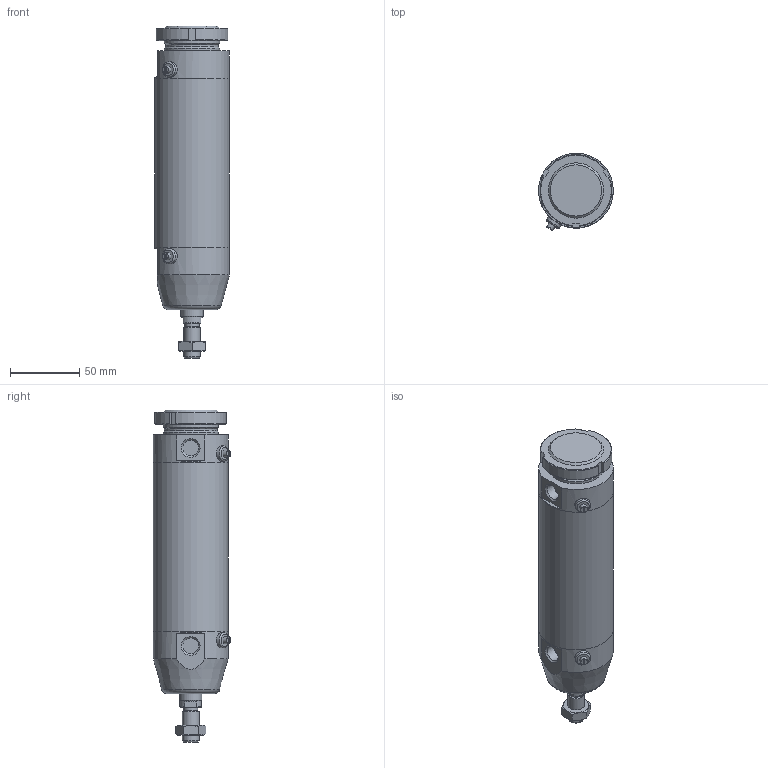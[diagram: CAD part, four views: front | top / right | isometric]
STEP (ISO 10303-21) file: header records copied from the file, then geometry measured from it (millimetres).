
FILE_DESCRIPTION(/* description */ (''),/* implementation_level */ '2;1');
FILE_NAME(/* name */ 'I:\Area Tecnica\Documenti\A-Manieri\_Inventor\12X\12X#B_###_####_#_#\12XBB_050_0080_#_#.stp',/* time_stamp */ '2015-04-28T14:28:39+02:00',/* author */ ('maniean1'),/* organization */ ('Pneumax S.p.A.'),/* preprocessor_version */ 'ST-DEVELOPER v15.2',/* originating_system */ 'Autodesk Inventor 2014',/* authorisation */ '');
FILE_SCHEMA (('AUTOMOTIVE_DESIGN { 1 0 10303 214 3 1 1 }'));
Length unit declared in the file: millimetre
Products named in the file (7): C1250_619-0080; 12X50_614; S12X50_0080; 12X_50_11; 12X50_621; G12X_050_05; 12XBB_050_0080_#_#
Bounding box: 54 x 55.88 x 240 mm (x, y, z)
Volume: 309771.6 mm3; surface area: 87541.7 mm2
Topology: 6 solids, 6 shells, 98 faces, 217 edges, 140 vertices
Faces by surface type: plane 52, cylinder 24, cone 19, torus 3
Full cylindrical faces by diameter (mm): 5 x2, 10.2 x1, 11 x2, 11.4 x2, 12 x2, 14 x1, 15.6 x1, 16 x1, 38.2 x1, 40 x3, 50 x2, 54 x3
Entity records: 2646 total; most frequent: CARTESIAN_POINT 539, DIRECTION 439, ORIENTED_EDGE 346, AXIS2_PLACEMENT_3D 186, EDGE_CURVE 173, EDGE_LOOP 150, VERTEX_POINT 131, ADVANCED_FACE 98
